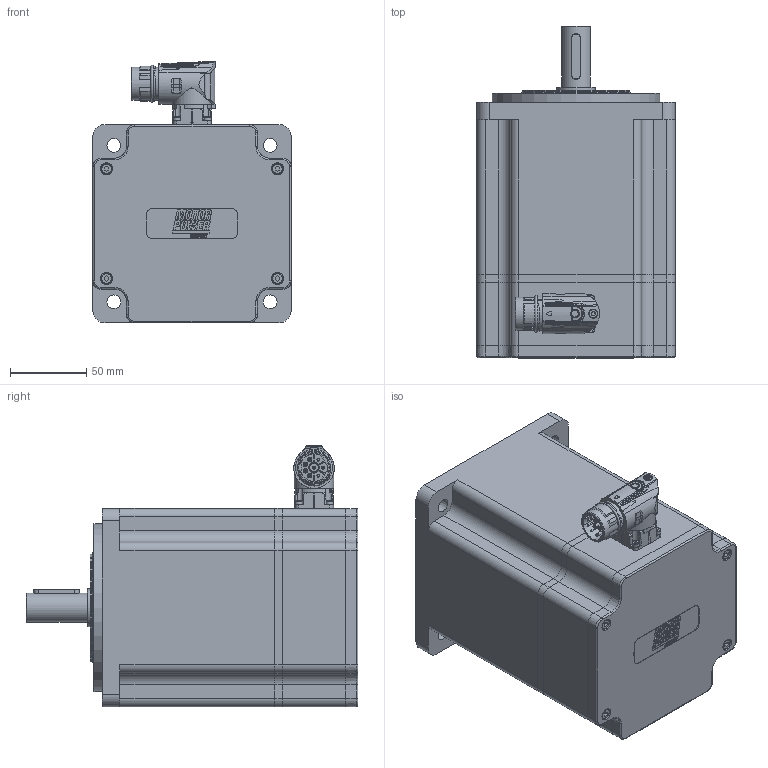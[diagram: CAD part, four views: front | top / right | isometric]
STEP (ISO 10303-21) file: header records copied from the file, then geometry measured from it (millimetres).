
FILE_DESCRIPTION(/* description */ ('Unknown'),/* implementation_level */ '2;1');
FILE_NAME(/* name */ 'TC4-130.5G.XX.X. 3.M1.0.1.C21 Q0C601',/* time_stamp */ '2026-03-05T12:07:56+01:00',/* author */ ('Unknown'),/* organization */ ('Unknown'),/* preprocessor_version */ 'ST-DEVELOPER v19.4',/* originating_system */ 'Solid Edge',/* authorisation */ 'Unknown');
FILE_SCHEMA (('AUTOMOTIVE_DESIGN {1 0 10303 214 3 1 1}'));
Products named in the file (13): Q0C601 5G M1 VUOTO; 005119002009; 005911000432; 005911000185; 003251022006; 003155002232; 005113000500; Corpo TC4-130 5G single cable; 007117000456; 005911000180; 003103040232; 003003199939; 003107003290
Assembly tree (23 placements, depth 2):
  Q0C601 5G M1 VUOTO
    005119002009
    005911000432  x6
    005911000185  x4
    003251022006
    003155002232
    005113000500
    Corpo TC4-130 5G single cable
    007117000456
    005911000180  x4
    003103040232
    003003199939
    003107003290
Bounding box: 130 x 217.5 x 171.5 mm (x, y, z)
Volume: 1022486.4 mm3; surface area: 324640.4 mm2
Topology: 25 solids, 25 shells, 1616 faces, 4069 edges, 2618 vertices
Faces by surface type: plane 771, cylinder 382, bspline 188, cone 146, torus 103, sphere 26
Full cylindrical faces by diameter (mm): 1 x4, 1.4 x4, 2 x4, 2.013 x8, 2.5 x4, 2.8 x4, 3 x8, 3.242 x26, 4 x11, 4.134 x8, 4.5 x19, 4.7 x4, 4.917 x2, 5.5 x5, 5.8 x1, 5.9 x1, 6 x4, 6.8 x1, 7 x10, 8 x12, 10 x1, 10.4 x4, 16 x1, 17.4 x1, 19 x1, 19.9 x1, 20 x2, 21.15 x2, 21.6 x1, 21.653 x1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
Entity records: 57069 total; most frequent: CARTESIAN_POINT 14645, ORIENTED_EDGE 6700, DIRECTION 6334, EDGE_CURVE 3350, AXIS2_PLACEMENT_3D 2351, VERTEX_POINT 2316, FACE_BOUND 1924, EDGE_LOOP 1904
